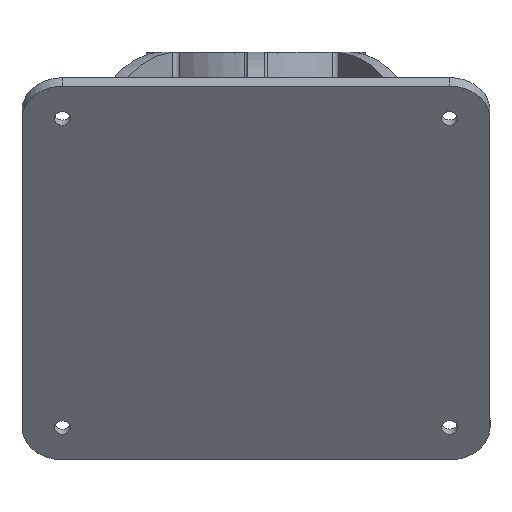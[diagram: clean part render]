
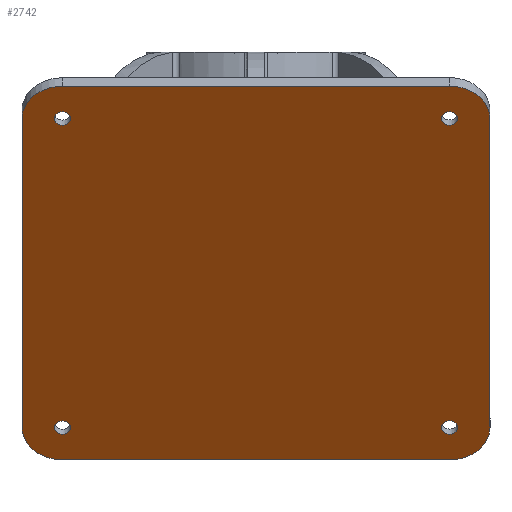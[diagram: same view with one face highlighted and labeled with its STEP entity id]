
A CAD part, front view. The second image highlights one B-rep face of the part: STEP entity #2742.
In plain terms, the highlighted planar face has unit normal (0, -0.799, -0.602).
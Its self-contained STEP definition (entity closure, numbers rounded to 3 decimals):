
#35=FACE_BOUND('',#782,.T.);
#36=FACE_BOUND('',#783,.T.);
#37=FACE_BOUND('',#784,.T.);
#38=FACE_BOUND('',#785,.T.);
#71=PLANE('',#3018);
#183=LINE('',#6705,#333);
#186=LINE('',#6713,#336);
#238=LINE('',#8719,#388);
#239=LINE('',#8722,#389);
#333=VECTOR('',#3376,10.);
#336=VECTOR('',#3385,10.);
#388=VECTOR('',#3657,10.);
#389=VECTOR('',#3660,10.);
#610=FACE_OUTER_BOUND('',#781,.T.);
#781=EDGE_LOOP('',(#2425,#2426,#2427,#2428,#2429,#2430,#2431,#2432));
#782=EDGE_LOOP('',(#2433));
#783=EDGE_LOOP('',(#2434));
#784=EDGE_LOOP('',(#2435));
#785=EDGE_LOOP('',(#2436));
#863=CIRCLE('',#2905,10.);
#864=CIRCLE('',#2908,10.);
#870=CIRCLE('',#2920,2.075);
#872=CIRCLE('',#2924,2.075);
#874=CIRCLE('',#2928,2.075);
#876=CIRCLE('',#2932,2.075);
#919=CIRCLE('',#3019,10.);
#920=CIRCLE('',#3020,10.);
#1183=VERTEX_POINT('',#6697);
#1184=VERTEX_POINT('',#6699);
#1185=VERTEX_POINT('',#6703);
#1186=VERTEX_POINT('',#6707);
#1187=VERTEX_POINT('',#6711);
#1207=VERTEX_POINT('',#6810);
#1209=VERTEX_POINT('',#6818);
#1211=VERTEX_POINT('',#6826);
#1213=VERTEX_POINT('',#6834);
#1298=VERTEX_POINT('',#8716);
#1299=VERTEX_POINT('',#8718);
#1300=VERTEX_POINT('',#8720);
#1502=EDGE_CURVE('',#1184,#1183,#863,.T.);
#1505=EDGE_CURVE('',#1183,#1185,#183,.T.);
#1507=EDGE_CURVE('',#1185,#1186,#864,.T.);
#1509=EDGE_CURVE('',#1186,#1187,#186,.T.);
#1532=EDGE_CURVE('',#1207,#1207,#870,.T.);
#1536=EDGE_CURVE('',#1209,#1209,#872,.T.);
#1540=EDGE_CURVE('',#1211,#1211,#874,.T.);
#1544=EDGE_CURVE('',#1213,#1213,#876,.T.);
#1699=EDGE_CURVE('',#1187,#1298,#919,.T.);
#1700=EDGE_CURVE('',#1298,#1299,#238,.T.);
#1701=EDGE_CURVE('',#1299,#1300,#920,.T.);
#1702=EDGE_CURVE('',#1300,#1184,#239,.T.);
#2425=ORIENTED_EDGE('',*,*,#1505,.T.);
#2426=ORIENTED_EDGE('',*,*,#1507,.T.);
#2427=ORIENTED_EDGE('',*,*,#1509,.T.);
#2428=ORIENTED_EDGE('',*,*,#1699,.T.);
#2429=ORIENTED_EDGE('',*,*,#1700,.T.);
#2430=ORIENTED_EDGE('',*,*,#1701,.T.);
#2431=ORIENTED_EDGE('',*,*,#1702,.T.);
#2432=ORIENTED_EDGE('',*,*,#1502,.T.);
#2433=ORIENTED_EDGE('',*,*,#1536,.T.);
#2434=ORIENTED_EDGE('',*,*,#1532,.T.);
#2435=ORIENTED_EDGE('',*,*,#1544,.T.);
#2436=ORIENTED_EDGE('',*,*,#1540,.T.);
#2742=ADVANCED_FACE('',(#610,#35,#36,#37,#38),#71,.T.);
#2905=AXIS2_PLACEMENT_3D('',#6700,#3370,#3371);
#2908=AXIS2_PLACEMENT_3D('',#6709,#3380,#3381);
#2920=AXIS2_PLACEMENT_3D('',#6811,#3414,#3415);
#2924=AXIS2_PLACEMENT_3D('',#6819,#3424,#3425);
#2928=AXIS2_PLACEMENT_3D('',#6827,#3434,#3435);
#2932=AXIS2_PLACEMENT_3D('',#6835,#3444,#3445);
#3018=AXIS2_PLACEMENT_3D('',#8715,#3653,#3654);
#3019=AXIS2_PLACEMENT_3D('',#8717,#3655,#3656);
#3020=AXIS2_PLACEMENT_3D('',#8721,#3658,#3659);
#3370=DIRECTION('center_axis',(0.,-0.799,
-0.602));
#3371=DIRECTION('ref_axis',(1.,0.,0.));
#3376=DIRECTION('',(-1.,0.,0.));
#3380=DIRECTION('center_axis',(0.,-0.799,-0.602));
#3381=DIRECTION('ref_axis',(0.,-0.602,0.799));
#3385=DIRECTION('',(0.,0.602,-0.799));
#3414=DIRECTION('center_axis',(0.,0.799,
0.602));
#3415=DIRECTION('ref_axis',(-1.,0.,0.));
#3424=DIRECTION('center_axis',(0.,0.799,
0.602));
#3425=DIRECTION('ref_axis',(-1.,0.,0.));
#3434=DIRECTION('center_axis',(0.,0.799,
0.602));
#3435=DIRECTION('ref_axis',(-1.,0.,0.));
#3444=DIRECTION('center_axis',(0.,0.799,
0.602));
#3445=DIRECTION('ref_axis',(-1.,0.,0.));
#3653=DIRECTION('center_axis',(0.,-0.799,
-0.602));
#3654=DIRECTION('ref_axis',(-1.,0.,0.));
#3655=DIRECTION('center_axis',(0.,-0.799,
-0.602));
#3656=DIRECTION('ref_axis',(-1.,0.,0.));
#3657=DIRECTION('',(1.,0.,0.));
#3658=DIRECTION('center_axis',(0.,-0.799,-0.602));
#3659=DIRECTION('ref_axis',(0.,0.602,-0.799));
#3660=DIRECTION('',(0.,-0.602,0.799));
#6697=CARTESIAN_POINT('',(47.856,-54.961,-8.43));
#6699=CARTESIAN_POINT('',(57.86,-48.945,-16.413));
#6700=CARTESIAN_POINT('Origin',(47.86,-48.943,-16.416));
#6703=CARTESIAN_POINT('',(-47.916,-54.937,-8.461));
#6705=CARTESIAN_POINT('',(47.856,-54.961,-8.43));
#6707=CARTESIAN_POINT('',(-57.911,-48.917,-16.451));
#6709=CARTESIAN_POINT('Origin',(-47.911,-48.919,-16.448));
#6711=CARTESIAN_POINT('',(-57.872,8.72,-92.938));
#6713=CARTESIAN_POINT('',(-57.911,-48.917,-16.451));
#6810=CARTESIAN_POINT('',(-45.836,-48.92,-16.447));
#6811=CARTESIAN_POINT('Origin',(-47.911,-48.919,-16.448));
#6818=CARTESIAN_POINT('',(49.935,-48.943,-16.416));
#6819=CARTESIAN_POINT('Origin',(47.86,-48.943,-16.416));
#6826=CARTESIAN_POINT('',(49.974,8.693,-92.902));
#6827=CARTESIAN_POINT('Origin',(47.899,8.694,-92.903));
#6834=CARTESIAN_POINT('',(-45.797,8.717,-92.934));
#6835=CARTESIAN_POINT('Origin',(-47.872,8.717,-92.934));
#8715=CARTESIAN_POINT('Origin',(-0.006,-20.113,
-54.675));
#8716=CARTESIAN_POINT('',(-47.868,14.736,-100.921));
#8717=CARTESIAN_POINT('Origin',(-47.872,8.717,-92.934));
#8718=CARTESIAN_POINT('',(47.904,14.712,-100.889));
#8719=CARTESIAN_POINT('',(-47.868,14.736,-100.921));
#8720=CARTESIAN_POINT('',(57.899,8.691,-92.9));
#8721=CARTESIAN_POINT('Origin',(47.899,8.694,-92.903));
#8722=CARTESIAN_POINT('',(57.899,8.691,-92.9));
